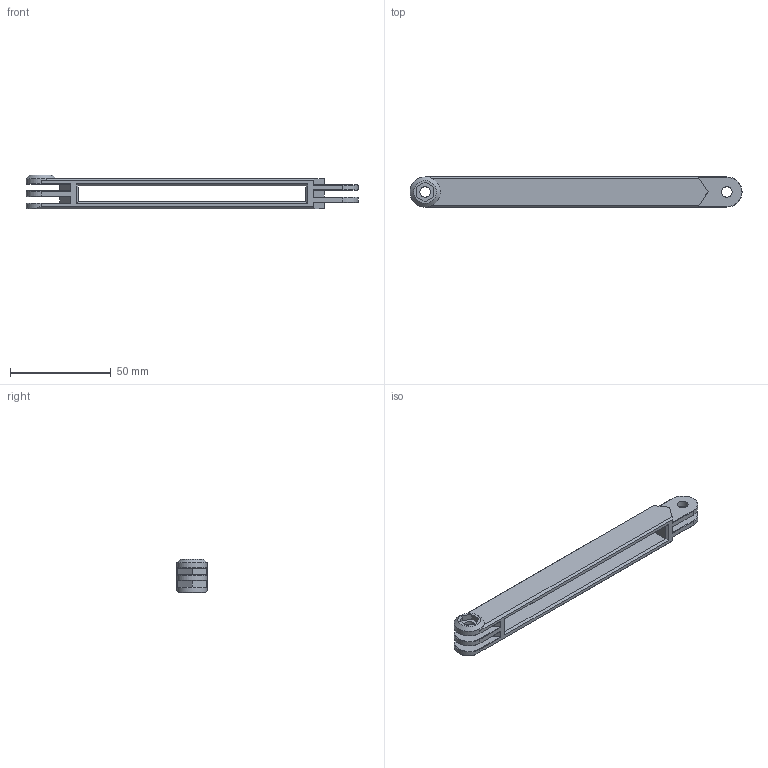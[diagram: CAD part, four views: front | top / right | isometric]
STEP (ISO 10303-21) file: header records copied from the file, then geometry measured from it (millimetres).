
FILE_DESCRIPTION(/* description */ ('STEP AP214'),/* implementation_level */ '2;1');
FILE_NAME(/* name */ '60a1428825d25912eeacad1e',/* time_stamp */ '2021-05-16T16:04:25+00:00',/* author */ (''),/* organization */ (''),/* preprocessor_version */ 'ST-DEVELOPER v18.1',/* originating_system */ ' ',/* authorisation */ ' ');
FILE_SCHEMA (('AUTOMOTIVE_DESIGN {1 0 10303 214 3 1 1}'));
Length unit declared in the file: metre
Products named in the file (1): Arm Straight
Bounding box: 165 x 15 x 16.8 mm (x, y, z)
Volume: 18145.6 mm3; surface area: 12439 mm2
Topology: 1 solids, 1 shells, 92 faces, 246 edges, 157 vertices
Faces by surface type: plane 72, cylinder 10, cone 10
Full cylindrical faces by diameter (mm): 5.3 x5
Entity records: 2789 total; most frequent: CARTESIAN_POINT 484, ORIENTED_EDGE 468, DIRECTION 453, EDGE_CURVE 234, LINE 197, VECTOR 197, VERTEX_POINT 151, AXIS2_PLACEMENT_3D 128
